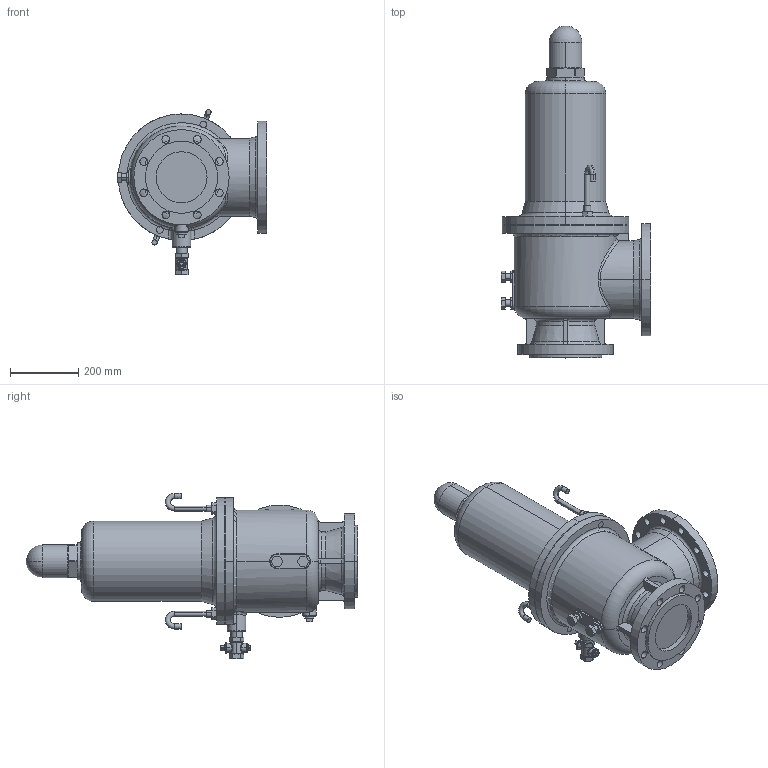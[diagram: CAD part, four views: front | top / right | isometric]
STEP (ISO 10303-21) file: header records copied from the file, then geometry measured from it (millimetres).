
FILE_DESCRIPTION (( 'STEP AP203' ), '1' );
FILE_NAME ('AF-4M 150A.STEP', '2024-08-02T02:09:51', ( '' ), ( '' ), 'SwSTEP 2.0', 'SolidWorks 2024', '' );
FILE_SCHEMA (( 'CONFIG_CONTROL_DESIGN' ));
Length unit declared in the file: millimetre
Products named in the file (8): 背圧絞り弁 150A; フックボルト 150A; AF-4 本体部P 150A; 止めボルト 150A; プラグ 20A; キャップ 150A; AF-4M 150A; ナット M20
Assembly tree (10 placements, depth 2):
  AF-4M 150A
    AF-4 本体部P 150A
    プラグ 20A
    止めボルト 150A  x2
    背圧絞り弁 150A
    フックボルト 150A  x2
    ナット M20  x2
    キャップ 150A
Bounding box: 438.5 x 975.5 x 485.2 mm (x, y, z)
Volume: 50119113.4 mm3; surface area: 1418131.9 mm2
Topology: 10 solids, 10 shells, 431 faces, 1089 edges, 673 vertices
Faces by surface type: plane 149, cylinder 135, cone 55, torus 43, bspline 43, sphere 6
Entity records: 17301 total; most frequent: CARTESIAN_POINT 7331, ORIENTED_EDGE 1918, DIRECTION 1876, EDGE_CURVE 959, AXIS2_PLACEMENT_3D 781, VERTEX_POINT 608, EDGE_LOOP 451, CIRCLE 426
